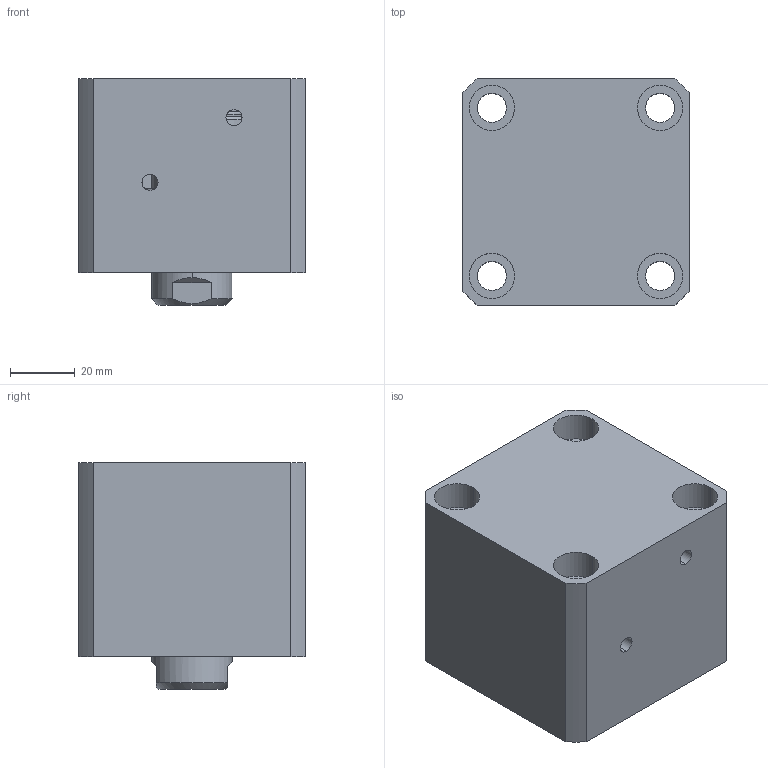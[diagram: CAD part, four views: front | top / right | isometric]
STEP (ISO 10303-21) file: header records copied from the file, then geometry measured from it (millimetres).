
FILE_DESCRIPTION (( 'STEP AP214' ), '1' );
FILE_NAME ('chtb-sdma40x5n_asm.STEP', '2018-06-06T07:51:28', ( 'Windows' ), ( 'Microsoft' ), 'SwSTEP 2.0', 'SolidWorks 2015', '' );
FILE_SCHEMA (( 'AUTOMOTIVE_DESIGN' ));
Length unit declared in the file: millimetre
Products named in the file (4): CHTB-SDMA40X5NBT; CHTB-SD40X5NHSG; CHTB-SD40QG; chtb-sdma40x5n_asm
Assembly tree (3 placements, depth 2):
  chtb-sdma40x5n_asm
    CHTB-SD40QG
    CHTB-SD40X5NHSG
    CHTB-SDMA40X5NBT
Bounding box: 70 x 70 x 70 mm (x, y, z)
Volume: 260379.5 mm3; surface area: 62059.7 mm2
Topology: 3 solids, 3 shells, 157 faces, 413 edges, 274 vertices
Faces by surface type: cylinder 84, plane 36, bspline 14, torus 14, cone 9
Entity records: 10139 total; most frequent: CARTESIAN_POINT 6157, ORIENTED_EDGE 814, DIRECTION 768, EDGE_CURVE 407, AXIS2_PLACEMENT_3D 326, VERTEX_POINT 274, EDGE_LOOP 193, CIRCLE 177
